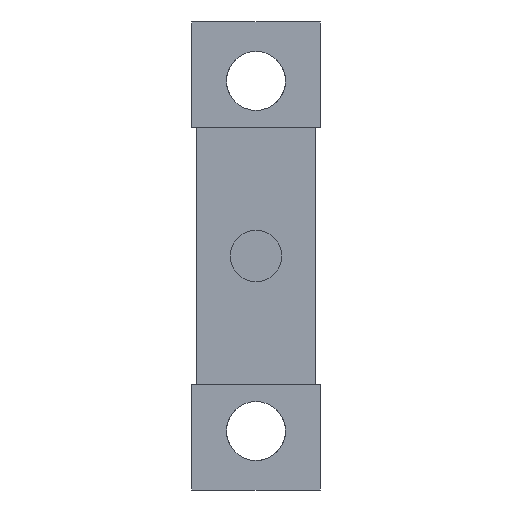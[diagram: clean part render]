
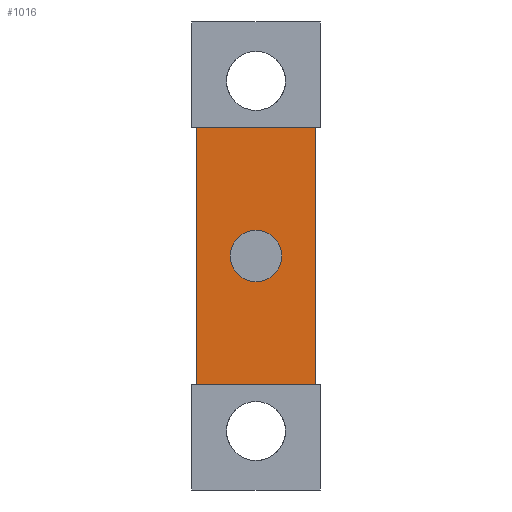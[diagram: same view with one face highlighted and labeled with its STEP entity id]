
A CAD part, front view. The second image highlights one B-rep face of the part: STEP entity #1016.
In plain terms, the highlighted planar face has unit normal (0, -1, 0).
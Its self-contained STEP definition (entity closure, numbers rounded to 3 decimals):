
#27=FACE_BOUND('',#391,.T.);
#100=LINE('',#1487,#222);
#105=LINE('',#1496,#227);
#121=LINE('',#1534,#243);
#124=LINE('',#1538,#246);
#222=VECTOR('',#1212,10.);
#227=VECTOR('',#1219,10.);
#243=VECTOR('',#1257,10.);
#246=VECTOR('',#1262,10.);
#327=FACE_OUTER_BOUND('',#390,.T.);
#390=EDGE_LOOP('',(#821,#822,#823,#824));
#391=EDGE_LOOP('',(#825));
#431=CIRCLE('',#1058,1.4);
#463=VERTEX_POINT('',#1429);
#486=VERTEX_POINT('',#1484);
#487=VERTEX_POINT('',#1486);
#489=VERTEX_POINT('',#1493);
#490=VERTEX_POINT('',#1495);
#566=EDGE_CURVE('',#463,#463,#431,.T.);
#593=EDGE_CURVE('',#486,#487,#100,.T.);
#598=EDGE_CURVE('',#490,#489,#105,.T.);
#618=EDGE_CURVE('',#487,#489,#121,.T.);
#621=EDGE_CURVE('',#490,#486,#124,.T.);
#821=ORIENTED_EDGE('',*,*,#621,.F.);
#822=ORIENTED_EDGE('',*,*,#598,.T.);
#823=ORIENTED_EDGE('',*,*,#618,.F.);
#824=ORIENTED_EDGE('',*,*,#593,.F.);
#825=ORIENTED_EDGE('',*,*,#566,.T.);
#968=PLANE('',#1082);
#1016=ADVANCED_FACE('',(#327,#27),#968,.F.);
#1058=AXIS2_PLACEMENT_3D('',#1430,#1168,#1169);
#1082=AXIS2_PLACEMENT_3D('',#1541,#1265,#1266);
#1168=DIRECTION('center_axis',(0.,1.,0.));
#1169=DIRECTION('ref_axis',(-1.,0.,0.));
#1212=DIRECTION('',(-1.,0.,0.));
#1219=DIRECTION('',(-1.,0.,0.));
#1257=DIRECTION('',(0.,0.,1.));
#1262=DIRECTION('',(0.,0.,-1.));
#1265=DIRECTION('center_axis',(0.,1.,0.));
#1266=DIRECTION('ref_axis',(0.,0.,-1.));
#1429=CARTESIAN_POINT('',(44272.011,8159.058,0.));
#1430=CARTESIAN_POINT('Origin',(44270.611,8159.058,0.));
#1484=CARTESIAN_POINT('',(44273.861,8159.058,-7.));
#1486=CARTESIAN_POINT('',(44267.361,8159.058,-7.));
#1487=CARTESIAN_POINT('',(44273.861,8159.058,-7.));
#1493=CARTESIAN_POINT('',(44267.361,8159.058,7.));
#1495=CARTESIAN_POINT('',(44273.861,8159.058,7.));
#1496=CARTESIAN_POINT('',(44273.861,8159.058,7.));
#1534=CARTESIAN_POINT('',(44267.361,8159.058,-3.35));
#1538=CARTESIAN_POINT('',(44273.861,8159.058,3.5));
#1541=CARTESIAN_POINT('Origin',(44273.611,8159.058,-4.856));
